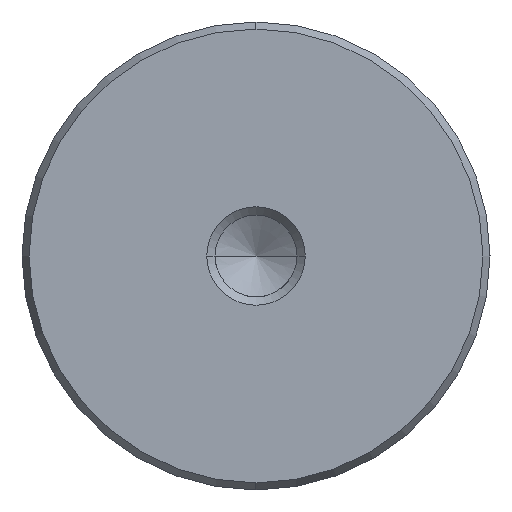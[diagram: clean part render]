
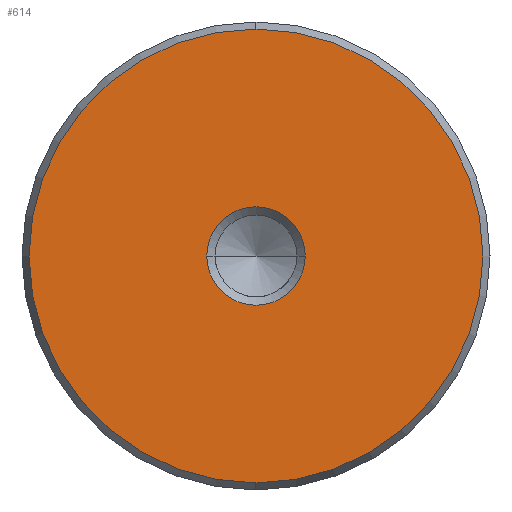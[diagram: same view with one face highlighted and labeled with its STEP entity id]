
A CAD part, left-side view. The second image highlights one B-rep face of the part: STEP entity #614.
In plain terms, the highlighted planar face has unit normal (-1, 0, 0).
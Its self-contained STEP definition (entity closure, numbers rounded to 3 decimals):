
#528=CARTESIAN_POINT('Vertex',(0.,0.,-18.423)) ;
#531=CARTESIAN_POINT('Axis2P3D Location',(0.,0.,0.)) ;
#535=CARTESIAN_POINT('Vertex',(0.,18.423,0.)) ;
#538=CARTESIAN_POINT('Axis2P3D Location',(0.,0.,0.)) ;
#542=CARTESIAN_POINT('Vertex',(0.,0.,18.423)) ;
#564=CARTESIAN_POINT('Axis2P3D Location',(0.,0.,0.)) ;
#568=CARTESIAN_POINT('Vertex',(0.,-18.423,0.)) ;
#571=CARTESIAN_POINT('Axis2P3D Location',(0.,0.,0.)) ;
#585=CARTESIAN_POINT('Axis2P3D Location',(0.,0.,0.)) ;
#596=CARTESIAN_POINT('Axis2P3D Location',(0.,0.,0.)) ;
#600=CARTESIAN_POINT('Vertex',(0.,4.,0.)) ;
#602=CARTESIAN_POINT('Vertex',(0.,-4.,0.)) ;
#605=CARTESIAN_POINT('Axis2P3D Location',(0.,0.,0.)) ;
#532=DIRECTION('Axis2P3D Direction',(1.,0.,-0.)) ;
#539=DIRECTION('Axis2P3D Direction',(1.,0.,-0.)) ;
#565=DIRECTION('Axis2P3D Direction',(1.,0.,-0.)) ;
#572=DIRECTION('Axis2P3D Direction',(1.,0.,-0.)) ;
#586=DIRECTION('Axis2P3D Direction',(1.,0.,-0.)) ;
#587=DIRECTION('Axis2P3D XDirection',(-0.,0.,-1.)) ;
#597=DIRECTION('Axis2P3D Direction',(1.,0.,-0.)) ;
#606=DIRECTION('Axis2P3D Direction',(1.,0.,-0.)) ;
#533=AXIS2_PLACEMENT_3D('Circle Axis2P3D',#531,#532,$) ;
#540=AXIS2_PLACEMENT_3D('Circle Axis2P3D',#538,#539,$) ;
#566=AXIS2_PLACEMENT_3D('Circle Axis2P3D',#564,#565,$) ;
#573=AXIS2_PLACEMENT_3D('Circle Axis2P3D',#571,#572,$) ;
#588=AXIS2_PLACEMENT_3D('Plane Axis2P3D',#585,#586,#587) ;
#598=AXIS2_PLACEMENT_3D('Circle Axis2P3D',#596,#597,$) ;
#607=AXIS2_PLACEMENT_3D('Circle Axis2P3D',#605,#606,$) ;
#591=ORIENTED_EDGE('',*,*,#537,.F.) ;
#592=ORIENTED_EDGE('',*,*,#575,.F.) ;
#593=ORIENTED_EDGE('',*,*,#570,.F.) ;
#594=ORIENTED_EDGE('',*,*,#544,.F.) ;
#611=ORIENTED_EDGE('',*,*,#604,.T.) ;
#612=ORIENTED_EDGE('',*,*,#609,.T.) ;
#613=FACE_BOUND('',#610,.T.) ;
#614=ADVANCED_FACE('720-38x280',(#595,#613),#589,.F.) ;
#534=CIRCLE('generated circle',#533,18.423) ;
#541=CIRCLE('generated circle',#540,18.423) ;
#567=CIRCLE('generated circle',#566,18.423) ;
#574=CIRCLE('generated circle',#573,18.423) ;
#599=CIRCLE('generated circle',#598,4.) ;
#608=CIRCLE('generated circle',#607,4.) ;
#537=EDGE_CURVE('',#529,#536,#534,.T.) ;
#544=EDGE_CURVE('',#536,#543,#541,.T.) ;
#570=EDGE_CURVE('',#543,#569,#567,.T.) ;
#575=EDGE_CURVE('',#569,#529,#574,.T.) ;
#604=EDGE_CURVE('',#601,#603,#599,.T.) ;
#609=EDGE_CURVE('',#603,#601,#608,.T.) ;
#590=EDGE_LOOP('',(#591,#592,#593,#594)) ;
#610=EDGE_LOOP('',(#611,#612)) ;
#595=FACE_OUTER_BOUND('',#590,.T.) ;
#589=PLANE('Plane',#588) ;
#529=VERTEX_POINT('',#528) ;
#536=VERTEX_POINT('',#535) ;
#543=VERTEX_POINT('',#542) ;
#569=VERTEX_POINT('',#568) ;
#601=VERTEX_POINT('',#600) ;
#603=VERTEX_POINT('',#602) ;
